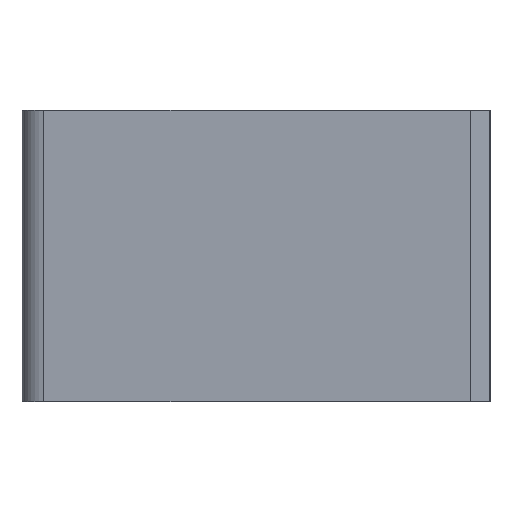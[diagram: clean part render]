
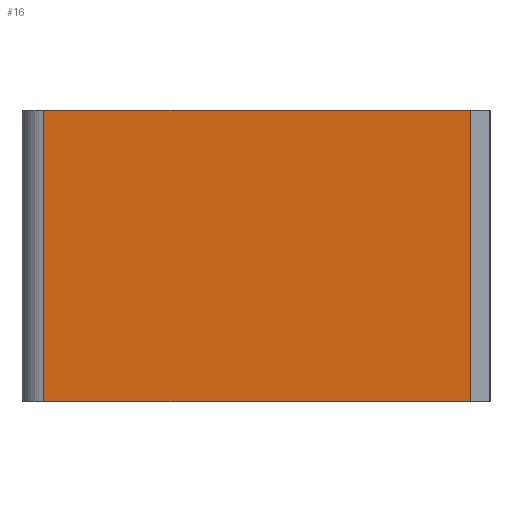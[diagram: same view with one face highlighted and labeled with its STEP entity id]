
A CAD part, left-side view. The second image highlights one B-rep face of the part: STEP entity #16.
In plain terms, the highlighted planar face has unit normal (-0.995, 0.104, 0).
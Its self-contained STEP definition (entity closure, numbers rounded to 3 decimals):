
#16 = ADVANCED_FACE ( 'NONE', ( #511 ), #313, .F. ) ;
#66 = ORIENTED_EDGE ( 'NONE', *, *, #299, .F. ) ;
#70 = CARTESIAN_POINT ( 'NONE',  ( -9.499, 0.4, 3. ) ) ;
#82 = CARTESIAN_POINT ( 'NONE',  ( -9.499, 0.4, 3. ) ) ;
#86 = DIRECTION ( 'NONE',  ( -0.105, -0.995, 0. ) ) ;
#129 = VECTOR ( 'NONE', #454, 1000. ) ;
#137 = VECTOR ( 'NONE', #86, 1000. ) ;
#145 = CARTESIAN_POINT ( 'NONE',  ( -8.577, 9.174, 3. ) ) ;
#148 = EDGE_CURVE ( 'NONE', #507, #348, #298, .T. ) ;
#170 = VECTOR ( 'NONE', #672, 1000. ) ;
#187 = CARTESIAN_POINT ( 'NONE',  ( -9.499, 0.4, -3. ) ) ;
#197 = CARTESIAN_POINT ( 'NONE',  ( -9.499, 0.4, 3. ) ) ;
#256 = EDGE_LOOP ( 'NONE', ( #651, #619, #66, #452 ) ) ;
#276 = DIRECTION ( 'NONE',  ( 0.995, -0.105, 0. ) ) ;
#295 = VERTEX_POINT ( 'NONE', #82 ) ;
#298 = LINE ( 'NONE', #461, #129 ) ;
#299 = EDGE_CURVE ( 'NONE', #507, #295, #623, .T. ) ;
#313 = PLANE ( 'NONE',  #709 ) ;
#331 = DIRECTION ( 'NONE',  ( 0.105, 0.995, 0. ) ) ;
#348 = VERTEX_POINT ( 'NONE', #612 ) ;
#452 = ORIENTED_EDGE ( 'NONE', *, *, #148, .T. ) ;
#454 = DIRECTION ( 'NONE',  ( 0., 0., -1. ) ) ;
#461 = CARTESIAN_POINT ( 'NONE',  ( -8.577, 9.174, 3. ) ) ;
#463 = CARTESIAN_POINT ( 'NONE',  ( -9.499, 0.4, 3. ) ) ;
#507 = VERTEX_POINT ( 'NONE', #145 ) ;
#511 = FACE_OUTER_BOUND ( 'NONE', #256, .T. ) ;
#514 = EDGE_CURVE ( 'NONE', #348, #734, #768, .T. ) ;
#568 = EDGE_CURVE ( 'NONE', #295, #734, #681, .T. ) ;
#602 = DIRECTION ( 'NONE',  ( -0.105, -0.995, 0. ) ) ;
#612 = CARTESIAN_POINT ( 'NONE',  ( -8.577, 9.174, -3. ) ) ;
#619 = ORIENTED_EDGE ( 'NONE', *, *, #568, .F. ) ;
#623 = LINE ( 'NONE', #70, #137 ) ;
#644 = VECTOR ( 'NONE', #602, 1000. ) ;
#651 = ORIENTED_EDGE ( 'NONE', *, *, #514, .T. ) ;
#672 = DIRECTION ( 'NONE',  ( 0., 0., -1. ) ) ;
#681 = LINE ( 'NONE', #197, #170 ) ;
#709 = AXIS2_PLACEMENT_3D ( 'NONE', #463, #276, #331 ) ;
#734 = VERTEX_POINT ( 'NONE', #187 ) ;
#746 = CARTESIAN_POINT ( 'NONE',  ( -9.499, 0.4, -3. ) ) ;
#768 = LINE ( 'NONE', #746, #644 ) ;
